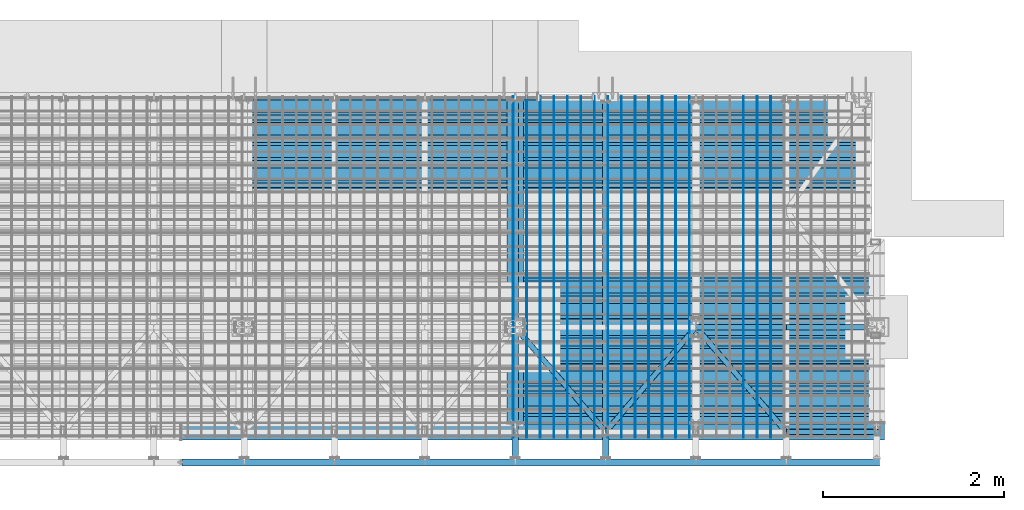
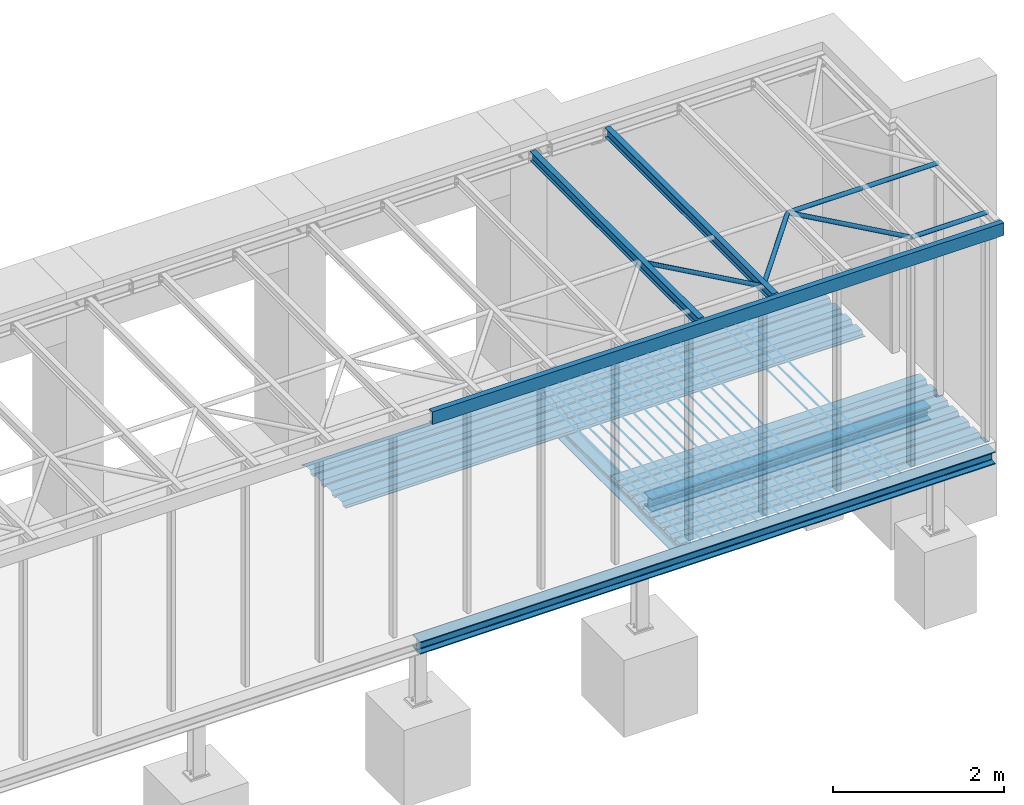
# One storey, part 8 of 27: 33 beams, 33 elements without a shape of their own.
"""IFC2X3 building model written with IfcOpenShell, lengths in millimetres."""

from ifc_helpers import new_model, si_unit, frame, origin_with_axes, origin_2d_with_axis, place, context, subcontext, project, spatial, polyline, circle, hollow_circle, i_section, u_section, outline, extrude, boolean, clip, halfspace, material, type_object, element, aggregate, save


model = new_model("IFC2X3")

# Units and contexts
model_context = context("Model", 3, precision=1e-05, world=origin_with_axes())
body_context = subcontext(model_context, "Body", "Model", "MODEL_VIEW")
ifc_project = project(units=[si_unit("LENGTHUNIT", "METRE", prefix="MILLI"), si_unit("AREAUNIT", "SQUARE_METRE"), si_unit("VOLUMEUNIT", "CUBIC_METRE"), si_unit("MASSUNIT", "GRAM", prefix="KILO"), si_unit("TIMEUNIT", "SECOND"), si_unit("PLANEANGLEUNIT", "RADIAN"), si_unit("SOLIDANGLEUNIT", "STERADIAN"), si_unit("THERMODYNAMICTEMPERATUREUNIT", "DEGREE_CELSIUS"), si_unit("LUMINOUSINTENSITYUNIT", "LUMEN")], contexts=[model_context])

# Site, building, storey
site_placement = place(None, origin_with_axes())
site = spatial("IfcSite", under=ifc_project, at=site_placement, Name="Undefined", CompositionType="ELEMENT")
building_placement = place(site_placement, origin_with_axes())
building = spatial("IfcBuilding", under=site, at=building_placement, Name="Undefined", CompositionType="ELEMENT")
storey_placement = place(building_placement, origin_with_axes())
storey = spatial("IfcBuildingStorey", under=building, at=storey_placement, Name="Undefined", CompositionType="ELEMENT", Elevation=0.0)

# Assembly, beam
assembly_1_placement = place(storey_placement, origin_with_axes())
assembly_1 = element("IfcElementAssembly", 1, at=assembly_1_placement, inside=storey, Name="Steel Assembly", AssemblyPlace="NOTDEFINED", PredefinedType="RIGID_FRAME")
ifc_material = material(Name="STEEL/S235JR")
beam_type_1 = type_object("IfcBeamType", Name="D8", PredefinedType="NOTDEFINED")
beam_1_placement = place(assembly_1_placement, frame((14877.5, 3814.99758213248, -49.0), z_axis=(0.0, 0.0, 1.0), x_axis=(0.0, -1.0, 0.0)))
beam_1 = element("IfcBeam", 2, at=beam_1_placement, type_object=beam_type_1, material=ifc_material, Name="VÝSTUZ PLECHODOSKA", ObjectType="D8", context=body_context, shape_type="SweptSolid", body=[
    extrude(circle(Radius=4.0, at=origin_2d_with_axis()), frame((3779.99758213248, 0.0, 0.0), z_axis=(-1.0, 0.0, 0.0), x_axis=(0.0, -1.0, 0.0)), (0.0, 0.0, 1.0), 3780.0),
])
aggregate(assembly_1, [beam_1])

assembly_2_placement = place(storey_placement, origin_with_axes())
assembly_2 = element("IfcElementAssembly", 3, at=assembly_2_placement, inside=storey, Name="Steel Assembly", AssemblyPlace="NOTDEFINED", PredefinedType="RIGID_FRAME")
beam_2_placement = place(assembly_2_placement, frame((14727.5, 3814.99758213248, -49.0), z_axis=(0.0, 0.0, 1.0), x_axis=(0.0, -1.0, 0.0)))
beam_2 = element("IfcBeam", 4, at=beam_2_placement, type_object=beam_type_1, material=ifc_material, Name="VÝSTUZ PLECHODOSKA", ObjectType="D8", context=body_context, shape_type="SweptSolid", body=[
    extrude(circle(Radius=4.0, at=origin_2d_with_axis()), frame((3779.99758213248, 0.0, 0.0), z_axis=(-1.0, 0.0, 0.0), x_axis=(0.0, -1.0, 0.0)), (0.0, 0.0, 1.0), 3780.0),
])
aggregate(assembly_2, [beam_2])

assembly_3_placement = place(storey_placement, origin_with_axes())
assembly_3 = element("IfcElementAssembly", 5, at=assembly_3_placement, inside=storey, Name="Steel Assembly", AssemblyPlace="NOTDEFINED", PredefinedType="RIGID_FRAME")
beam_3_placement = place(assembly_3_placement, frame((14577.5, 3814.99758213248, -49.0), z_axis=(0.0, 0.0, 1.0), x_axis=(0.0, -1.0, 0.0)))
beam_3 = element("IfcBeam", 6, at=beam_3_placement, type_object=beam_type_1, material=ifc_material, Name="VÝSTUZ PLECHODOSKA", ObjectType="D8", context=body_context, shape_type="SweptSolid", body=[
    extrude(circle(Radius=4.0, at=origin_2d_with_axis()), frame((3779.99758213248, 0.0, 0.0), z_axis=(-1.0, 0.0, 0.0), x_axis=(0.0, -1.0, 0.0)), (0.0, 0.0, 1.0), 3780.0),
])
aggregate(assembly_3, [beam_3])

assembly_4_placement = place(storey_placement, origin_with_axes())
assembly_4 = element("IfcElementAssembly", 7, at=assembly_4_placement, inside=storey, Name="Steel Assembly", AssemblyPlace="NOTDEFINED", PredefinedType="RIGID_FRAME")
beam_4_placement = place(assembly_4_placement, frame((13977.5, 3814.99758213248, -49.0), z_axis=(0.0, 0.0, 1.0), x_axis=(0.0, -1.0, 0.0)))
beam_4 = element("IfcBeam", 8, at=beam_4_placement, type_object=beam_type_1, material=ifc_material, Name="VÝSTUZ PLECHODOSKA", ObjectType="D8", context=body_context, shape_type="SweptSolid", body=[
    extrude(circle(Radius=4.0, at=origin_2d_with_axis()), frame((3779.99758213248, 0.0, 0.0), z_axis=(-1.0, 0.0, 0.0), x_axis=(0.0, -1.0, 0.0)), (0.0, 0.0, 1.0), 3780.0),
])
aggregate(assembly_4, [beam_4])

assembly_5_placement = place(storey_placement, origin_with_axes())
assembly_5 = element("IfcElementAssembly", 9, at=assembly_5_placement, inside=storey, Name="Steel Assembly", AssemblyPlace="NOTDEFINED", PredefinedType="RIGID_FRAME")
beam_5_placement = place(assembly_5_placement, frame((13827.5, 3814.99758213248, -49.0), z_axis=(0.0, 0.0, 1.0), x_axis=(0.0, -1.0, 0.0)))
beam_5 = element("IfcBeam", 10, at=beam_5_placement, type_object=beam_type_1, material=ifc_material, Name="VÝSTUZ PLECHODOSKA", ObjectType="D8", context=body_context, shape_type="SweptSolid", body=[
    extrude(circle(Radius=4.0, at=origin_2d_with_axis()), frame((3779.99758213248, 0.0, 0.0), z_axis=(-1.0, 0.0, 0.0), x_axis=(0.0, -1.0, 0.0)), (0.0, 0.0, 1.0), 3780.0),
])
aggregate(assembly_5, [beam_5])

assembly_6_placement = place(storey_placement, origin_with_axes())
assembly_6 = element("IfcElementAssembly", 11, at=assembly_6_placement, inside=storey, Name="Steel Assembly", AssemblyPlace="NOTDEFINED", PredefinedType="RIGID_FRAME")
beam_6_placement = place(assembly_6_placement, frame((13677.5, 3814.99758213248, -49.0), z_axis=(0.0, 0.0, 1.0), x_axis=(0.0, -1.0, 0.0)))
beam_6 = element("IfcBeam", 12, at=beam_6_placement, type_object=beam_type_1, material=ifc_material, Name="VÝSTUZ PLECHODOSKA", ObjectType="D8", context=body_context, shape_type="SweptSolid", body=[
    extrude(circle(Radius=4.0, at=origin_2d_with_axis()), frame((3779.99758213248, 0.0, 0.0), z_axis=(-1.0, 0.0, 0.0), x_axis=(0.0, -1.0, 0.0)), (0.0, 0.0, 1.0), 3780.0),
])
aggregate(assembly_6, [beam_6])

assembly_7_placement = place(storey_placement, origin_with_axes())
assembly_7 = element("IfcElementAssembly", 13, at=assembly_7_placement, inside=storey, Name="Steel Assembly", AssemblyPlace="NOTDEFINED", PredefinedType="RIGID_FRAME")
beam_7_placement = place(assembly_7_placement, frame((13527.5, 3814.99758213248, -49.0), z_axis=(0.0, 0.0, 1.0), x_axis=(0.0, -1.0, 0.0)))
beam_7 = element("IfcBeam", 14, at=beam_7_placement, type_object=beam_type_1, material=ifc_material, Name="VÝSTUZ PLECHODOSKA", ObjectType="D8", context=body_context, shape_type="SweptSolid", body=[
    extrude(circle(Radius=4.0, at=origin_2d_with_axis()), frame((3779.99758213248, 0.0, 0.0), z_axis=(-1.0, 0.0, 0.0), x_axis=(0.0, -1.0, 0.0)), (0.0, 0.0, 1.0), 3780.0),
])
aggregate(assembly_7, [beam_7])

assembly_8_placement = place(storey_placement, origin_with_axes())
assembly_8 = element("IfcElementAssembly", 15, at=assembly_8_placement, inside=storey, Name="Steel Assembly", AssemblyPlace="NOTDEFINED", PredefinedType="RIGID_FRAME")
beam_8_placement = place(assembly_8_placement, frame((13377.5, 3814.99758213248, -49.0), z_axis=(0.0, 0.0, 1.0), x_axis=(0.0, -1.0, 0.0)))
beam_8 = element("IfcBeam", 16, at=beam_8_placement, type_object=beam_type_1, material=ifc_material, Name="VÝSTUZ PLECHODOSKA", ObjectType="D8", context=body_context, shape_type="SweptSolid", body=[
    extrude(circle(Radius=4.0, at=origin_2d_with_axis()), frame((3779.99758213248, 0.0, 0.0), z_axis=(-1.0, 0.0, 0.0), x_axis=(0.0, -1.0, 0.0)), (0.0, 0.0, 1.0), 3780.0),
])
aggregate(assembly_8, [beam_8])

assembly_9_placement = place(storey_placement, origin_with_axes())
assembly_9 = element("IfcElementAssembly", 17, at=assembly_9_placement, inside=storey, Name="Steel Assembly", AssemblyPlace="NOTDEFINED", PredefinedType="RIGID_FRAME")
beam_9_placement = place(assembly_9_placement, frame((13227.5, 3814.99758213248, -49.0), z_axis=(0.0, 0.0, 1.0), x_axis=(0.0, -1.0, 0.0)))
beam_9 = element("IfcBeam", 18, at=beam_9_placement, type_object=beam_type_1, material=ifc_material, Name="VÝSTUZ PLECHODOSKA", ObjectType="D8", context=body_context, shape_type="SweptSolid", body=[
    extrude(circle(Radius=4.0, at=origin_2d_with_axis()), frame((3779.99758213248, 0.0, 0.0), z_axis=(-1.0, 0.0, 0.0), x_axis=(0.0, -1.0, 0.0)), (0.0, 0.0, 1.0), 3780.0),
])
aggregate(assembly_9, [beam_9])

assembly_10_placement = place(storey_placement, origin_with_axes())
assembly_10 = element("IfcElementAssembly", 19, at=assembly_10_placement, inside=storey, Name="Steel Assembly", AssemblyPlace="NOTDEFINED", PredefinedType="RIGID_FRAME")
beam_10_placement = place(assembly_10_placement, frame((13077.5, 3814.99758213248, -49.0), z_axis=(0.0, 0.0, 1.0), x_axis=(0.0, -1.0, 0.0)))
beam_10 = element("IfcBeam", 20, at=beam_10_placement, type_object=beam_type_1, material=ifc_material, Name="VÝSTUZ PLECHODOSKA", ObjectType="D8", context=body_context, shape_type="SweptSolid", body=[
    extrude(circle(Radius=4.0, at=origin_2d_with_axis()), frame((3779.99758213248, 0.0, 0.0), z_axis=(-1.0, 0.0, 0.0), x_axis=(0.0, -1.0, 0.0)), (0.0, 0.0, 1.0), 3780.0),
])
aggregate(assembly_10, [beam_10])

assembly_11_placement = place(storey_placement, origin_with_axes())
assembly_11 = element("IfcElementAssembly", 21, at=assembly_11_placement, inside=storey, Name="Steel Assembly", AssemblyPlace="NOTDEFINED", PredefinedType="RIGID_FRAME")
beam_11_placement = place(assembly_11_placement, frame((12927.5, 3814.99758213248, -49.0), z_axis=(0.0, 0.0, 1.0), x_axis=(0.0, -1.0, 0.0)))
beam_11 = element("IfcBeam", 22, at=beam_11_placement, type_object=beam_type_1, material=ifc_material, Name="VÝSTUZ PLECHODOSKA", ObjectType="D8", context=body_context, shape_type="SweptSolid", body=[
    extrude(circle(Radius=4.0, at=origin_2d_with_axis()), frame((3779.99758213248, 0.0, 0.0), z_axis=(-1.0, 0.0, 0.0), x_axis=(0.0, -1.0, 0.0)), (0.0, 0.0, 1.0), 3780.0),
])
aggregate(assembly_11, [beam_11])

assembly_12_placement = place(storey_placement, origin_with_axes())
assembly_12 = element("IfcElementAssembly", 23, at=assembly_12_placement, inside=storey, Name="Steel Assembly", AssemblyPlace="NOTDEFINED", PredefinedType="RIGID_FRAME")
beam_12_placement = place(assembly_12_placement, frame((12777.5, 3814.99758213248, -49.0), z_axis=(0.0, 0.0, 1.0), x_axis=(0.0, -1.0, 0.0)))
beam_12 = element("IfcBeam", 24, at=beam_12_placement, type_object=beam_type_1, material=ifc_material, Name="VÝSTUZ PLECHODOSKA", ObjectType="D8", context=body_context, shape_type="SweptSolid", body=[
    extrude(circle(Radius=4.0, at=origin_2d_with_axis()), frame((3779.99758213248, 0.0, 0.0), z_axis=(-1.0, 0.0, 0.0), x_axis=(0.0, -1.0, 0.0)), (0.0, 0.0, 1.0), 3780.0),
])
aggregate(assembly_12, [beam_12])

assembly_13_placement = place(storey_placement, origin_with_axes())
assembly_13 = element("IfcElementAssembly", 25, at=assembly_13_placement, inside=storey, Name="Steel Assembly", AssemblyPlace="NOTDEFINED", PredefinedType="RIGID_FRAME")
beam_13_placement = place(assembly_13_placement, frame((12627.5, 3814.99758213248, -49.0), z_axis=(0.0, 0.0, 1.0), x_axis=(0.0, -1.0, 0.0)))
beam_13 = element("IfcBeam", 26, at=beam_13_placement, type_object=beam_type_1, material=ifc_material, Name="VÝSTUZ PLECHODOSKA", ObjectType="D8", context=body_context, shape_type="SweptSolid", body=[
    extrude(circle(Radius=4.0, at=origin_2d_with_axis()), frame((3779.99758213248, 0.0, 0.0), z_axis=(-1.0, 0.0, 0.0), x_axis=(0.0, -1.0, 0.0)), (0.0, 0.0, 1.0), 3780.0),
])
aggregate(assembly_13, [beam_13])

assembly_14_placement = place(storey_placement, origin_with_axes())
assembly_14 = element("IfcElementAssembly", 27, at=assembly_14_placement, inside=storey, Name="Steel Assembly", AssemblyPlace="NOTDEFINED", PredefinedType="RIGID_FRAME")
beam_14_placement = place(assembly_14_placement, frame((12477.5, 3814.99758213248, -49.0), z_axis=(0.0, 0.0, 1.0), x_axis=(0.0, -1.0, 0.0)))
beam_14 = element("IfcBeam", 28, at=beam_14_placement, type_object=beam_type_1, material=ifc_material, Name="VÝSTUZ PLECHODOSKA", ObjectType="D8", context=body_context, shape_type="SweptSolid", body=[
    extrude(circle(Radius=4.0, at=origin_2d_with_axis()), frame((3779.99758213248, 0.0, 0.0), z_axis=(-1.0, 0.0, 0.0), x_axis=(0.0, -1.0, 0.0)), (0.0, 0.0, 1.0), 3780.0),
])
aggregate(assembly_14, [beam_14])

assembly_15_placement = place(storey_placement, origin_with_axes())
assembly_15 = element("IfcElementAssembly", 29, at=assembly_15_placement, inside=storey, Name="Steel Assembly", AssemblyPlace="NOTDEFINED", PredefinedType="RIGID_FRAME")
beam_15_placement = place(assembly_15_placement, frame((12327.5, 3814.99758213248, -49.0), z_axis=(0.0, 0.0, 1.0), x_axis=(0.0, -1.0, 0.0)))
beam_15 = element("IfcBeam", 30, at=beam_15_placement, type_object=beam_type_1, material=ifc_material, Name="VÝSTUZ PLECHODOSKA", ObjectType="D8", context=body_context, shape_type="SweptSolid", body=[
    extrude(circle(Radius=4.0, at=origin_2d_with_axis()), frame((3779.99758213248, 0.0, 0.0), z_axis=(-1.0, 0.0, 0.0), x_axis=(0.0, -1.0, 0.0)), (0.0, 0.0, 1.0), 3780.0),
])
aggregate(assembly_15, [beam_15])

assembly_16_placement = place(storey_placement, origin_with_axes())
assembly_16 = element("IfcElementAssembly", 31, at=assembly_16_placement, inside=storey, Name="Steel Assembly", AssemblyPlace="NOTDEFINED", PredefinedType="RIGID_FRAME")
beam_16_placement = place(assembly_16_placement, frame((12177.5, 3814.99758213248, -49.0), z_axis=(0.0, 0.0, 1.0), x_axis=(0.0, -1.0, 0.0)))
beam_16 = element("IfcBeam", 32, at=beam_16_placement, type_object=beam_type_1, material=ifc_material, Name="VÝSTUZ PLECHODOSKA", ObjectType="D8", context=body_context, shape_type="SweptSolid", body=[
    extrude(circle(Radius=4.0, at=origin_2d_with_axis()), frame((3779.99758213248, 0.0, 0.0), z_axis=(-1.0, 0.0, 0.0), x_axis=(0.0, -1.0, 0.0)), (0.0, 0.0, 1.0), 3780.0),
])
aggregate(assembly_16, [beam_16])

assembly_17_placement = place(storey_placement, origin_with_axes())
assembly_17 = element("IfcElementAssembly", 33, at=assembly_17_placement, inside=storey, Name="Steel Assembly", AssemblyPlace="NOTDEFINED", PredefinedType="RIGID_FRAME")
beam_17_placement = place(assembly_17_placement, frame((12027.5, 3814.99758213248, -49.0), z_axis=(0.0, 0.0, 1.0), x_axis=(0.0, -1.0, 0.0)))
beam_17 = element("IfcBeam", 34, at=beam_17_placement, type_object=beam_type_1, material=ifc_material, Name="VÝSTUZ PLECHODOSKA", ObjectType="D8", context=body_context, shape_type="SweptSolid", body=[
    extrude(circle(Radius=4.0, at=origin_2d_with_axis()), frame((3779.99758213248, 0.0, 0.0), z_axis=(-1.0, 0.0, 0.0), x_axis=(0.0, -1.0, 0.0)), (0.0, 0.0, 1.0), 3780.0),
])
aggregate(assembly_17, [beam_17])

assembly_18_placement = place(storey_placement, origin_with_axes())
assembly_18 = element("IfcElementAssembly", 35, at=assembly_18_placement, inside=storey, Name="Steel Assembly", AssemblyPlace="NOTDEFINED", PredefinedType="RIGID_FRAME")
beam_type_2 = type_object("IfcBeamType", Name="TR50/250", PredefinedType="NOTDEFINED")
beam_18_placement = place(assembly_18_placement, frame((11960.0, 315.047569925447, -135.38), z_axis=(0.0, 0.0, 1.0), x_axis=(1.0, 0.0, 0.0)))
beam_18 = element("IfcBeam", 36, at=beam_18_placement, type_object=beam_type_2, material=ifc_material, Name="Trapézový plech", ObjectType="TR50/250", context=body_context, shape_type="Clipping", body=[
    clip(extrude(outline(polyline([(-487.739990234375, -24.6299991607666), (-524.950012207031, -24.6200008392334), (-524.950012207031, -23.8700008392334), (-488.149993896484, -23.8700008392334), (-457.649993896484, 24.6299991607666), (-322.239990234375, 24.6299991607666), (-291.739990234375, -23.8700008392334), (-238.149993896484, -23.8700008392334), (-207.649993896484, 24.6299991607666), (-72.2399978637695, 24.6299991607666), (-41.7400016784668, -23.8700008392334), (11.8500003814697, -23.8700008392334), (42.3499984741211, 24.6299991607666), (177.759994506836, 24.6299991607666), (208.259994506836, -23.8700008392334), (261.850006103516, -23.8700008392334), (292.350006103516, 24.6299991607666), (427.760009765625, 24.6299991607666), (458.260009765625, -23.8700008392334), (511.850006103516, -23.8700008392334), (524.309997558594, -4.05000019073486), (524.950012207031, -4.44999980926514), (512.260009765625, -24.6200008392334), (457.850006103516, -24.6200008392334), (427.350006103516, 23.8799991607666), (292.760009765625, 23.8799991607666), (262.260009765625, -24.6200008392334), (207.850006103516, -24.6200008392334), (177.350006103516, 23.8799991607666), (42.7599983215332, 23.8799991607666), (12.2600002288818, -24.6200008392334), (-42.1500015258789, -24.6200008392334), (-72.6500015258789, 23.8799991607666), (-207.240005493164, 23.8799991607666), (-237.740005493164, -24.6200008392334), (-292.149993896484, -24.6200008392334), (-322.649993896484, 23.8799991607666), (-457.239990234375, 23.8799991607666), (-487.739990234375, -24.6299991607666)])), frame((4180.0, 0.0, 0.0), z_axis=(-1.0, 0.0, 0.0), x_axis=(0.0, -1.0, 0.0)), (0.0, 0.0, 1.0), 4180.0), halfspace(frame((365.0, -155.047569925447, -55.0), z_axis=(0.0, -1.0, 0.0), x_axis=(0.0, 0.0, 1.0)), False)),
])
aggregate(assembly_18, [beam_18])

assembly_19_placement = place(storey_placement, origin_with_axes())
assembly_19 = element("IfcElementAssembly", 37, at=assembly_19_placement, inside=storey, Name="Steel Assembly", AssemblyPlace="NOTDEFINED", PredefinedType="RIGID_FRAME")
beam_19_placement = place(assembly_19_placement, frame((11960.0, 1315.04756992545, -135.38), z_axis=(0.0, 0.0, 1.0), x_axis=(1.0, 0.0, 0.0)))
beam_19 = element("IfcBeam", 38, at=beam_19_placement, type_object=beam_type_2, material=ifc_material, Name="Trapézový plech", ObjectType="TR50/250", context=body_context, shape_type="SweptSolid", body=[
    extrude(outline(polyline([(-487.739990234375, -24.6299991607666), (-524.950012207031, -24.6200008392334), (-524.950012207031, -23.8700008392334), (-488.149993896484, -23.8700008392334), (-457.649993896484, 24.6299991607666), (-322.239990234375, 24.6299991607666), (-291.739990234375, -23.8700008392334), (-238.149993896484, -23.8700008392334), (-207.649993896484, 24.6299991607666), (-72.2399978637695, 24.6299991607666), (-41.7400016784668, -23.8700008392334), (11.8500003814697, -23.8700008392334), (42.3499984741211, 24.6299991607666), (177.759994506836, 24.6299991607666), (208.259994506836, -23.8700008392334), (261.850006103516, -23.8700008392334), (292.350006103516, 24.6299991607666), (427.760009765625, 24.6299991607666), (458.260009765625, -23.8700008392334), (511.850006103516, -23.8700008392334), (524.309997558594, -4.05000019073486), (524.950012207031, -4.44999980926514), (512.260009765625, -24.6200008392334), (457.850006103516, -24.6200008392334), (427.350006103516, 23.8799991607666), (292.760009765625, 23.8799991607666), (262.260009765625, -24.6200008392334), (207.850006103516, -24.6200008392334), (177.350006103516, 23.8799991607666), (42.7599983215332, 23.8799991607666), (12.2600002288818, -24.6200008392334), (-42.1500015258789, -24.6200008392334), (-72.6500015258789, 23.8799991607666), (-207.240005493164, 23.8799991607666), (-237.740005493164, -24.6200008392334), (-292.149993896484, -24.6200008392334), (-322.649993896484, 23.8799991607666), (-457.239990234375, 23.8799991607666), (-487.739990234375, -24.6299991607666)])), frame((4180.0, 0.0, 0.0), z_axis=(-1.0, 0.0, 0.0), x_axis=(0.0, -1.0, 0.0)), (0.0, 0.0, 1.0), 4180.0),
])
aggregate(assembly_19, [beam_19])

assembly_20_placement = place(storey_placement, origin_with_axes())
assembly_20 = element("IfcElementAssembly", 39, at=assembly_20_placement, inside=storey, Name="Steel Assembly", AssemblyPlace="NOTDEFINED", PredefinedType="RIGID_FRAME")
beam_20_placement = place(assembly_20_placement, frame((11960.0, 3315.04756992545, -135.38), z_axis=(0.0, 0.0, 1.0), x_axis=(1.0, 0.0, 0.0)))
beam_20 = element("IfcBeam", 40, at=beam_20_placement, type_object=beam_type_2, material=ifc_material, Name="Trapézový plech", ObjectType="TR50/250", context=body_context, shape_type="SweptSolid", body=[
    extrude(outline(polyline([(-487.739990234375, -24.6299991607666), (-524.950012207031, -24.6200008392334), (-524.950012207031, -23.8700008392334), (-488.149993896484, -23.8700008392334), (-457.649993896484, 24.6299991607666), (-322.239990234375, 24.6299991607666), (-291.739990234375, -23.8700008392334), (-238.149993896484, -23.8700008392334), (-207.649993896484, 24.6299991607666), (-72.2399978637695, 24.6299991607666), (-41.7400016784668, -23.8700008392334), (11.8500003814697, -23.8700008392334), (42.3499984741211, 24.6299991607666), (177.759994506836, 24.6299991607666), (208.259994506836, -23.8700008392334), (261.850006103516, -23.8700008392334), (292.350006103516, 24.6299991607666), (427.760009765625, 24.6299991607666), (458.260009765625, -23.8700008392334), (511.850006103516, -23.8700008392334), (524.309997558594, -4.05000019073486), (524.950012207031, -4.44999980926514), (512.260009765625, -24.6200008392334), (457.850006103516, -24.6200008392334), (427.350006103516, 23.8799991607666), (292.760009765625, 23.8799991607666), (262.260009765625, -24.6200008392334), (207.850006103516, -24.6200008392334), (177.350006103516, 23.8799991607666), (42.7599983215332, 23.8799991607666), (12.2600002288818, -24.6200008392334), (-42.1500015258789, -24.6200008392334), (-72.6500015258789, 23.8799991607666), (-207.240005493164, 23.8799991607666), (-237.740005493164, -24.6200008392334), (-292.149993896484, -24.6200008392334), (-322.649993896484, 23.8799991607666), (-457.239990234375, 23.8799991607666), (-487.739990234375, -24.6299991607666)])), frame((4035.0, 0.0, 0.0), z_axis=(-1.0, 0.0, 0.0), x_axis=(0.0, -1.0, 0.0)), (0.0, 0.0, 1.0), 4035.0),
])
aggregate(assembly_20, [beam_20])

assembly_21_placement = place(storey_placement, origin_with_axes())
assembly_21 = element("IfcElementAssembly", 41, at=assembly_21_placement, inside=storey, Name="Steel Assembly", AssemblyPlace="NOTDEFINED", PredefinedType="RIGID_FRAME")
beam_21_placement = place(assembly_21_placement, frame((8960.0, 3315.04756992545, -135.38), z_axis=(0.0, 0.0, 1.0), x_axis=(1.0, 0.0, 0.0)))
beam_21 = element("IfcBeam", 42, at=beam_21_placement, type_object=beam_type_2, material=ifc_material, Name="Trapézový plech", ObjectType="TR50/250", context=body_context, shape_type="SweptSolid", body=[
    extrude(outline(polyline([(-487.739990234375, -24.6299991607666), (-524.950012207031, -24.6200008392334), (-524.950012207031, -23.8700008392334), (-488.149993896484, -23.8700008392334), (-457.649993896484, 24.6299991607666), (-322.239990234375, 24.6299991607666), (-291.739990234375, -23.8700008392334), (-238.149993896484, -23.8700008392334), (-207.649993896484, 24.6299991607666), (-72.2399978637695, 24.6299991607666), (-41.7400016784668, -23.8700008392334), (11.8500003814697, -23.8700008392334), (42.3499984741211, 24.6299991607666), (177.759994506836, 24.6299991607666), (208.259994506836, -23.8700008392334), (261.850006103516, -23.8700008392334), (292.350006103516, 24.6299991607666), (427.760009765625, 24.6299991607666), (458.260009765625, -23.8700008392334), (511.850006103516, -23.8700008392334), (524.309997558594, -4.05000019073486), (524.950012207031, -4.44999980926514), (512.260009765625, -24.6200008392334), (457.850006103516, -24.6200008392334), (427.350006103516, 23.8799991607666), (292.760009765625, 23.8799991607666), (262.260009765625, -24.6200008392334), (207.850006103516, -24.6200008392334), (177.350006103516, 23.8799991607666), (42.7599983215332, 23.8799991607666), (12.2600002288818, -24.6200008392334), (-42.1500015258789, -24.6200008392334), (-72.6500015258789, 23.8799991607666), (-207.240005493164, 23.8799991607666), (-237.740005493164, -24.6200008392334), (-292.149993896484, -24.6200008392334), (-322.649993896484, 23.8799991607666), (-457.239990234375, 23.8799991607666), (-487.739990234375, -24.6299991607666)])), frame((3180.0, 0.0, 0.0), z_axis=(-1.0, 0.0, 0.0), x_axis=(0.0, -1.0, 0.0)), (0.0, 0.0, 1.0), 3180.0),
])
aggregate(assembly_21, [beam_21])

assembly_22_placement = place(storey_placement, origin_with_axes())
assembly_22 = element("IfcElementAssembly", 43, at=assembly_22_placement, inside=storey, Name="Steel Assembly", AssemblyPlace="NOTDEFINED", PredefinedType="RIGID_FRAME")
beam_type_3 = type_object("IfcBeamType", Name="HEB180", PredefinedType="NOTDEFINED")
beam_22_placement = place(assembly_22_placement, frame((8360.0, 100.0, -250.0), z_axis=(0.0, 0.0, -1.0), x_axis=(1.0, 0.0, 0.0)))
beam_22 = element("IfcBeam", 44, at=beam_22_placement, type_object=beam_type_3, material=ifc_material, Name="NOSNÍK", ObjectType="HEB180", context=body_context, shape_type="SweptSolid", body=[
    extrude(i_section(OverallWidth=180.0, OverallDepth=180.0, WebThickness=8.5, FlangeThickness=14.0, FilletRadius=15.0, at=origin_2d_with_axis()), frame((7780.0, 0.0, 0.0), z_axis=(-1.0, 0.0, 0.0), x_axis=(0.0, -1.0, 0.0)), (0.0, 0.0, 1.0), 7780.0),
])
aggregate(assembly_22, [beam_22])

assembly_23_placement = place(storey_placement, origin_with_axes())
assembly_23 = element("IfcElementAssembly", 45, at=assembly_23_placement, inside=storey, Name="Steel Assembly", AssemblyPlace="NOTDEFINED", PredefinedType="RIGID_FRAME")
beam_23_placement = place(assembly_23_placement, frame((12160.0, 1260.0, -250.0), z_axis=(0.0, 0.0, -1.0), x_axis=(1.0, 0.0, 0.0)))
beam_23 = element("IfcBeam", 46, at=beam_23_placement, type_object=beam_type_3, material=ifc_material, Name="NOSNÍK", ObjectType="HEB180", context=body_context, shape_type="SweptSolid", body=[
    extrude(i_section(OverallWidth=180.0, OverallDepth=180.0, WebThickness=8.5, FlangeThickness=14.0, FilletRadius=15.0, at=origin_2d_with_axis()), frame((3780.0, 0.0, 0.0), z_axis=(-1.0, 0.0, 0.0), x_axis=(0.0, -1.0, 0.0)), (0.0, 0.0, 1.0), 3780.0),
])
aggregate(assembly_23, [beam_23])

assembly_24_placement = place(storey_placement, origin_with_axes())
assembly_24 = element("IfcElementAssembly", 47, at=assembly_24_placement, inside=storey, Name="Steel Assembly", AssemblyPlace="NOTDEFINED", PredefinedType="RIGID_FRAME")
beam_24_placement = place(assembly_24_placement, frame((12050.0, 3767.0, -250.0), z_axis=(0.0, 0.0, 1.0), x_axis=(0.0, -1.0, 0.0)))
beam_24 = element("IfcBeam", 48, at=beam_24_placement, type_object=beam_type_3, material=ifc_material, Name="NOSNÍK", ObjectType="HEB180", context=body_context, shape_type="SweptSolid", body=[
    extrude(i_section(OverallWidth=180.0, OverallDepth=180.0, WebThickness=8.5, FlangeThickness=14.0, FilletRadius=15.0, at=origin_2d_with_axis()), frame((3557.0, 0.0, 0.0), z_axis=(-1.0, 0.0, 0.0), x_axis=(0.0, -1.0, 0.0)), (0.0, 0.0, 1.0), 3557.0),
])
aggregate(assembly_24, [beam_24])

assembly_25_placement = place(storey_placement, origin_with_axes())
assembly_25 = element("IfcElementAssembly", 49, at=assembly_25_placement, inside=storey, Name="Steel Assembly", AssemblyPlace="NOTDEFINED", PredefinedType="RIGID_FRAME")
beam_type_4 = type_object("IfcBeamType", Name="UPE180", PredefinedType="NOTDEFINED")
beam_25_placement = place(assembly_25_placement, frame((16090.0, -237.5, 3210.0), z_axis=(0.0, 0.0, 1.0), x_axis=(-1.0, 0.0, 0.0)))
beam_25 = element("IfcBeam", 50, at=beam_25_placement, type_object=beam_type_4, material=ifc_material, Name="NOSNÍK", ObjectType="UPE180", context=body_context, shape_type="SweptSolid", body=[
    extrude(u_section(Depth=180.0, FlangeWidth=75.0, WebThickness=5.5, FlangeThickness=10.5, FilletRadius=12.0, at=origin_2d_with_axis()), frame((7730.0, 0.0, 0.0), z_axis=(-1.0, 0.0, 0.0), x_axis=(0.0, -1.0, 0.0)), (0.0, 0.0, 1.0), 7730.0),
])
aggregate(assembly_25, [beam_25])

assembly_26_placement = place(storey_placement, origin_with_axes())
assembly_26 = element("IfcElementAssembly", 51, at=assembly_26_placement, inside=storey, Name="Steel Assembly", AssemblyPlace="NOTDEFINED", PredefinedType="RIGID_FRAME")
beam_type_5 = type_object("IfcBeamType", Name="CHS60.3*5", PredefinedType="NOTDEFINED")
beam_26_placement = place(assembly_26_placement, frame((14049.999999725, 1260.00000021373, 3230.0), z_axis=(0.0, 0.0, -1.0), x_axis=(0.652939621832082, -0.757409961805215, 0.0)))
beam_26 = element("IfcBeam", 52, at=beam_26_placement, type_object=beam_type_5, material=ifc_material, Name="NOSNÍK", ObjectType="CHS60.3*5", context=body_context, shape_type="CSG", body=[
    boolean("DIFFERENCE", boolean("DIFFERENCE", boolean("DIFFERENCE", boolean("DIFFERENCE", extrude(hollow_circle(Radius=30.15, WallThickness=5.0, at=origin_2d_with_axis()), frame((1531.53517752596, -1.81898940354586e-12, 0.0), z_axis=(-1.0, 0.0, 0.0), x_axis=(0.0, -1.0, 0.0)), (0.0, 0.0, 1.0), 1531.5), extrude(hollow_circle(Radius=30.15, WallThickness=5.0, at=origin_2d_with_axis()), frame((652.939622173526, -757.409961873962, 9.09494701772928e-13), z_axis=(-0.652939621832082, 0.757409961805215, 0.0), x_axis=(-0.757409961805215, -0.652939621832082, 0.0)), (0.0, 0.0, 1.0), 997.6)), extrude(hollow_circle(Radius=30.15, WallThickness=5.0, at=origin_2d_with_axis()), frame((1530.00076975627, 1.77991286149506, 9.09494701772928e-13), z_axis=(-0.652939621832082, 0.757409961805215, 0.0), x_axis=(-0.757409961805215, -0.652939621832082, 0.0)), (0.0, 0.0, 1.0), 995.3)), halfspace(frame((38.5731081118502, 30.1499999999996, -30.1499999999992), z_axis=(-0.652939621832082, 0.757409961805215, 0.0), x_axis=(0.0, 0.0, 1.0)), False)), halfspace(frame((1562.91007051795, 30.1499999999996, 30.150000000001), z_axis=(0.652939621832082, -0.757409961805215, 0.0), x_axis=(0.0, 0.0, -1.0)), False)),
])
aggregate(assembly_26, [beam_26])

assembly_27_placement = place(storey_placement, origin_with_axes())
assembly_27 = element("IfcElementAssembly", 53, at=assembly_27_placement, inside=storey, Name="Steel Assembly", AssemblyPlace="NOTDEFINED", PredefinedType="RIGID_FRAME")
beam_27_placement = place(assembly_27_placement, frame((13050.0, 100.0, 3230.0), z_axis=(0.0, 0.0, -1.0), x_axis=(0.652939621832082, 0.757409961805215, 0.0)))
beam_27 = element("IfcBeam", 54, at=beam_27_placement, type_object=beam_type_5, material=ifc_material, Name="NOSNÍK", ObjectType="CHS60.3*5", context=body_context, shape_type="CSG", body=[
    boolean("DIFFERENCE", boolean("DIFFERENCE", boolean("DIFFERENCE", boolean("DIFFERENCE", extrude(hollow_circle(Radius=30.15, WallThickness=5.0, at=origin_2d_with_axis()), frame((1531.53517752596, -1.81898940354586e-12, 0.0), z_axis=(-1.0, 0.0, 0.0), x_axis=(0.0, -1.0, 0.0)), (0.0, 0.0, 1.0), 1531.5), extrude(hollow_circle(Radius=30.15, WallThickness=5.0, at=origin_2d_with_axis()), frame((1530.00076941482, -1.77991293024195, 0.0), z_axis=(-0.652939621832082, -0.757409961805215, 0.0), x_axis=(0.757409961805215, -0.652939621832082, 0.0)), (0.0, 0.0, 1.0), 997.6)), extrude(hollow_circle(Radius=30.15, WallThickness=5.0, at=origin_2d_with_axis()), frame((651.405213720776, 755.630048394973, 0.0), z_axis=(-0.652939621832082, -0.757409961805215, 0.0), x_axis=(0.757409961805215, -0.652939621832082, 0.0)), (0.0, 0.0, 1.0), 995.3)), halfspace(frame((1562.9100704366, -30.1499999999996, -30.1500000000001), z_axis=(0.652939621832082, 0.757409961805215, 0.0), x_axis=(0.0, 0.0, 1.0)), False)), halfspace(frame((-31.3748924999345, 30.1499999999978, -30.1500000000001), z_axis=(-0.652939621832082, -0.757409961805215, 0.0), x_axis=(0.0, 0.0, 1.0)), False)),
])
aggregate(assembly_27, [beam_27])

assembly_28_placement = place(storey_placement, origin_with_axes())
assembly_28 = element("IfcElementAssembly", 55, at=assembly_28_placement, inside=storey, Name="Steel Assembly", AssemblyPlace="NOTDEFINED", PredefinedType="RIGID_FRAME")
beam_28_placement = place(assembly_28_placement, frame((12049.999999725, 1260.00000021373, 3230.0), z_axis=(0.0, 0.0, -1.0), x_axis=(0.652939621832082, -0.757409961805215, 0.0)))
beam_28 = element("IfcBeam", 56, at=beam_28_placement, type_object=beam_type_5, material=ifc_material, Name="NOSNÍK", ObjectType="CHS60.3*5", context=body_context, shape_type="CSG", body=[
    boolean("DIFFERENCE", boolean("DIFFERENCE", boolean("DIFFERENCE", boolean("DIFFERENCE", extrude(hollow_circle(Radius=30.15, WallThickness=5.0, at=origin_2d_with_axis()), frame((1531.53517752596, -1.81898940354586e-12, 0.0), z_axis=(-1.0, 0.0, 0.0), x_axis=(0.0, -1.0, 0.0)), (0.0, 0.0, 1.0), 1531.5), extrude(hollow_circle(Radius=30.15, WallThickness=5.0, at=origin_2d_with_axis()), frame((651.405214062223, -755.630048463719, 0.0), z_axis=(-0.652939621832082, 0.757409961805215, 0.0), x_axis=(-0.757409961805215, -0.652939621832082, 0.0)), (0.0, 0.0, 1.0), 995.3)), extrude(hollow_circle(Radius=30.15, WallThickness=5.0, at=origin_2d_with_axis()), frame((1530.00076975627, 1.77991286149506, 9.09494701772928e-13), z_axis=(-0.652939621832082, 0.757409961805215, 0.0), x_axis=(-0.757409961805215, -0.652939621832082, 0.0)), (0.0, 0.0, 1.0), 995.3)), halfspace(frame((38.5731081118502, 30.1499999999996, -30.1499999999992), z_axis=(-0.652939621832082, 0.757409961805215, 0.0), x_axis=(0.0, 0.0, 1.0)), False)), halfspace(frame((1562.91007051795, 30.1499999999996, 30.150000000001), z_axis=(0.652939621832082, -0.757409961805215, 0.0), x_axis=(0.0, 0.0, -1.0)), False)),
])
aggregate(assembly_28, [beam_28])

assembly_29_placement = place(storey_placement, origin_with_axes())
assembly_29 = element("IfcElementAssembly", 57, at=assembly_29_placement, inside=storey, Name="Steel Assembly", AssemblyPlace="NOTDEFINED", PredefinedType="RIGID_FRAME")
beam_29_placement = place(assembly_29_placement, frame((15052.35, 100.0, 3230.0), z_axis=(0.0, 0.0, -1.0), x_axis=(1.0, 0.0, 0.0)))
beam_29 = element("IfcBeam", 58, at=beam_29_placement, type_object=beam_type_5, material=ifc_material, Name="NOSNÍK", ObjectType="CHS60.3*5", context=body_context, shape_type="SweptSolid", body=[
    extrude(hollow_circle(Radius=30.15, WallThickness=5.0, at=origin_2d_with_axis()), frame((1032.15, 0.0, 0.0), z_axis=(-1.0, 0.0, 0.0), x_axis=(0.0, -1.0, 0.0)), (0.0, 0.0, 1.0), 1032.1),
])
aggregate(assembly_29, [beam_29])

assembly_30_placement = place(storey_placement, origin_with_axes())
assembly_30 = element("IfcElementAssembly", 59, at=assembly_30_placement, inside=storey, Name="Steel Assembly", AssemblyPlace="NOTDEFINED", PredefinedType="RIGID_FRAME")
beam_30_placement = place(assembly_30_placement, frame((15050.0, 1260.0, 3230.0), z_axis=(0.0, 0.0, -1.0), x_axis=(1.0, 0.0, 0.0)))
beam_30 = element("IfcBeam", 60, at=beam_30_placement, type_object=beam_type_5, material=ifc_material, Name="NOSNÍK", ObjectType="CHS60.3*5", context=body_context, shape_type="SweptSolid", body=[
    extrude(hollow_circle(Radius=30.15, WallThickness=5.0, at=origin_2d_with_axis()), frame((1034.5, 0.0, 0.0), z_axis=(-1.0, 0.0, 0.0), x_axis=(0.0, -1.0, 0.0)), (0.0, 0.0, 1.0), 1034.5),
])
aggregate(assembly_30, [beam_30])

assembly_31_placement = place(storey_placement, origin_with_axes())
assembly_31 = element("IfcElementAssembly", 61, at=assembly_31_placement, inside=storey, Name="Steel Assembly", AssemblyPlace="NOTDEFINED", PredefinedType="RIGID_FRAME")
beam_31_placement = place(assembly_31_placement, frame((14052.35, 1260.0, 3230.0), z_axis=(0.0, 0.0, -1.0), x_axis=(1.0, 0.0, 0.0)))
beam_31 = element("IfcBeam", 62, at=beam_31_placement, type_object=beam_type_5, material=ifc_material, Name="NOSNÍK", ObjectType="CHS60.3*5", context=body_context, shape_type="SweptSolid", body=[
    extrude(hollow_circle(Radius=30.15, WallThickness=5.0, at=origin_2d_with_axis()), frame((997.65, 0.0, 0.0), z_axis=(-1.0, 0.0, 0.0), x_axis=(0.0, -1.0, 0.0)), (0.0, 0.0, 1.0), 997.6),
])
aggregate(assembly_31, [beam_31])

assembly_32_placement = place(storey_placement, origin_with_axes())
assembly_32 = element("IfcElementAssembly", 63, at=assembly_32_placement, inside=storey, Name="Steel Assembly", AssemblyPlace="NOTDEFINED", PredefinedType="RIGID_FRAME")
beam_type_6 = type_object("IfcBeamType", Name="IPE140", PredefinedType="NOTDEFINED")
beam_32_placement = place(assembly_32_placement, frame((13050.0, -180.0, 3230.0), z_axis=(0.0, 0.0, 1.0), x_axis=(0.0, 1.0, 0.0)))
beam_32 = element("IfcBeam", 64, at=beam_32_placement, type_object=beam_type_6, material=ifc_material, Name="NOSNÍK", ObjectType="IPE140", context=body_context, shape_type="SweptSolid", body=[
    extrude(i_section(OverallWidth=73.0, OverallDepth=140.0, WebThickness=4.699999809, FlangeThickness=6.900000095, FilletRadius=7.0, at=origin_2d_with_axis()), frame((3927.0, 0.0, 0.0), z_axis=(-1.0, 0.0, 0.0), x_axis=(0.0, -1.0, 0.0)), (0.0, 0.0, 1.0), 3927.0),
])
aggregate(assembly_32, [beam_32])

assembly_33_placement = place(storey_placement, origin_with_axes())
assembly_33 = element("IfcElementAssembly", 65, at=assembly_33_placement, inside=storey, Name="Steel Assembly", AssemblyPlace="NOTDEFINED", PredefinedType="RIGID_FRAME")
beam_33_placement = place(assembly_33_placement, frame((12050.0, -180.0, 3230.0), z_axis=(0.0, 0.0, 1.0), x_axis=(0.0, 1.0, 0.0)))
beam_33 = element("IfcBeam", 66, at=beam_33_placement, type_object=beam_type_6, material=ifc_material, Name="NOSNÍK", ObjectType="IPE140", context=body_context, shape_type="SweptSolid", body=[
    extrude(i_section(OverallWidth=73.0, OverallDepth=140.0, WebThickness=4.699999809, FlangeThickness=6.900000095, FilletRadius=7.0, at=origin_2d_with_axis()), frame((3947.0, 0.0, 0.0), z_axis=(-1.0, 0.0, 0.0), x_axis=(0.0, -1.0, 0.0)), (0.0, 0.0, 1.0), 3947.0),
])
aggregate(assembly_33, [beam_33])

save(model, "model.ifc")
